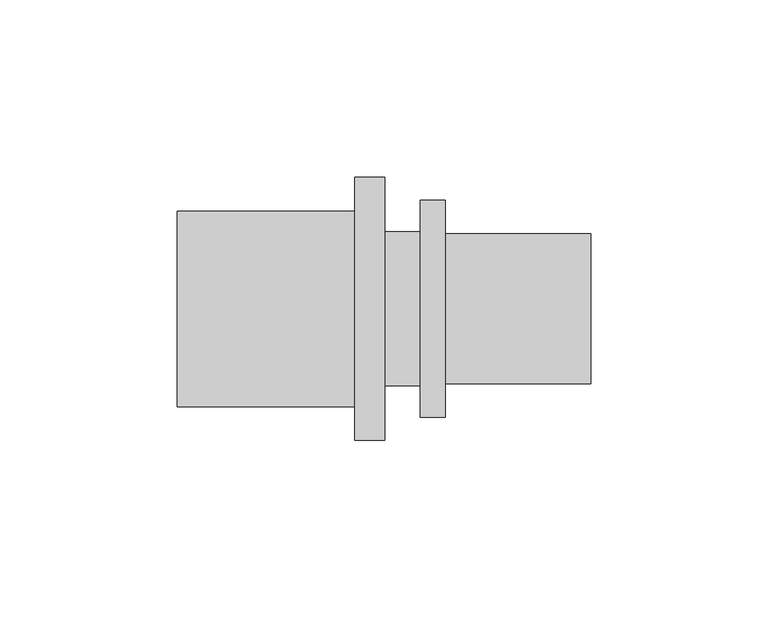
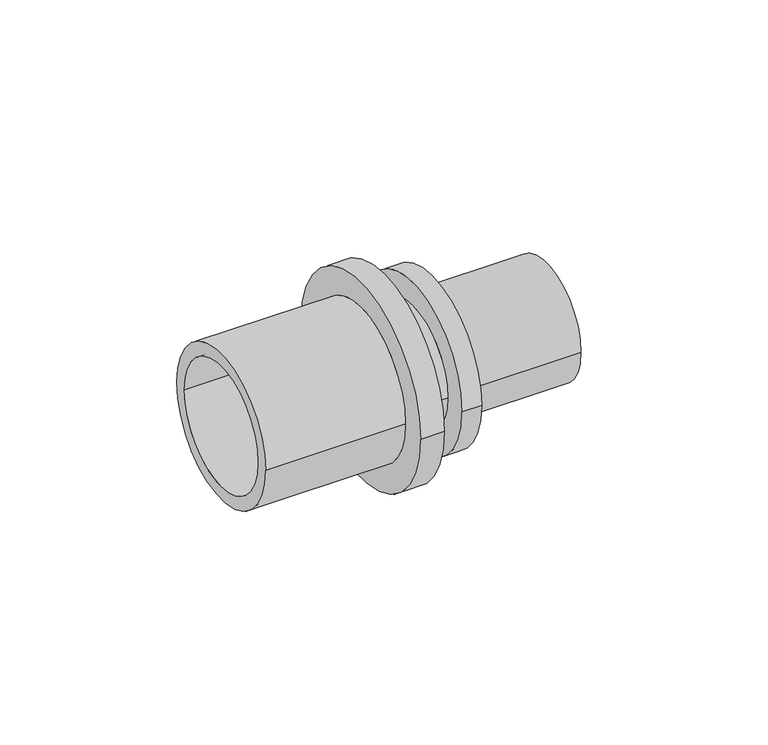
"""IFC4 building model written with IfcOpenShell, lengths in millimetres: pipe fitting geometry, RAUTITAN_Transition_RX+ stabil : RTI RX+ stabil Tr DE."""

from ifc_helpers import new_model, si_unit, frame, origin, place, context, project, spatial, polyline, circle_curve, source, transform, mapped, element, save
from ifc_brep_helpers import plane_surface, cylinder_surface, revolved_surface, advanced_brep


def pipe_fitting_1c4b8443(model_context):
    return source(origin(), model_context, "Body", "AdvancedBrep", [
        advanced_brep(
        [(-63.5, 22.75, 0.0), (-63.5, -22.75, 0.0), (-13.5, -22.75, 0.0), (-13.5, 22.75, 0.0), (5.0, 21.75, 0.0), (5.0, -21.75, 0.0), (-5.0, -21.75, 0.0), (-5.0, 21.75, 0.0), (12.0, 30.55, 0.0), (12.0, -30.55, 0.0), (5.0, -30.55, 0.0), (5.0, 30.55, 0.0), (53.0, 21.15, 0.0), (53.0, -21.15, 0.0), (12.0, -21.15, 0.0), (12.0, 21.15, 0.0), (-7.5, 16.75, 0.0), (-7.5, -16.75, 0.0), (53.0, -16.75, 0.0), (53.0, 16.75, 0.0), (-5.0, 37.05, 0.0), (-5.0, -37.05, 0.0), (-13.5, 27.55, 0.0), (-13.5, -27.55, 0.0), (-63.5, -27.55, 0.0), (-63.5, 27.55, 0.0), (-13.5, -37.05, 0.0), (-13.5, 37.05, 0.0)],
        [
            (0, 1, circle_curve(frame((-63.5, 0.0, 0.0), z_axis=(-1.0, 0.0, 0.0), x_axis=(0.0, -1.0, 0.0)), 22.75)),
            (1, 2),
            (2, 3, circle_curve(frame((-13.5, 0.0, 0.0), z_axis=(1.0, 0.0, 0.0), x_axis=(0.0, -1.0, 0.0)), 22.75)),
            (3, 0),
            (4, 5, circle_curve(frame((5.0, 0.0, 0.0), z_axis=(-1.0, 0.0, 0.0), x_axis=(0.0, -1.0, 0.0)), 21.75)),
            (5, 6),
            (6, 7, circle_curve(frame((-5.0, 0.0, 0.0), z_axis=(1.0, 0.0, 0.0), x_axis=(0.0, -1.0, 0.0)), 21.75)),
            (7, 4),
            (8, 9, circle_curve(frame((12.0, 0.0, 0.0), z_axis=(-1.0, 0.0, 0.0), x_axis=(0.0, -1.0, 0.0)), 30.55)),
            (9, 10),
            (10, 11, circle_curve(frame((5.0, 0.0, 0.0), z_axis=(1.0, 0.0, 0.0), x_axis=(0.0, -1.0, 0.0)), 30.55)),
            (11, 8),
            (12, 13, circle_curve(frame((53.0, 0.0, 0.0), z_axis=(-1.0, 0.0, 0.0), x_axis=(0.0, -1.0, 0.0)), 21.15)),
            (13, 14),
            (14, 15, circle_curve(frame((12.0, 0.0, 0.0), z_axis=(1.0, 0.0, 0.0), x_axis=(0.0, -1.0, 0.0)), 21.15)),
            (15, 12),
            (16, 17, circle_curve(frame((-7.5, 0.0, 0.0), z_axis=(-1.0, 0.0, 0.0), x_axis=(0.0, -1.0, 0.0)), 16.75)),
            (17, 18),
            (18, 19, circle_curve(frame((53.0, 0.0, 0.0), z_axis=(1.0, 0.0, 0.0), x_axis=(0.0, -1.0, 0.0)), 16.75)),
            (19, 16),
            (2, 17),
            (16, 3),
            (1, 0, circle_curve(frame((-63.5, 0.0, 0.0), z_axis=(-1.0, 0.0, 0.0), x_axis=(0.0, 1.0, 0.0)), 22.75)),
            (3, 2, circle_curve(frame((-13.5, 0.0, 0.0), z_axis=(1.0, 0.0, 0.0), x_axis=(0.0, 1.0, 0.0)), 22.75)),
            (20, 21, circle_curve(frame((-5.0, 0.0, 0.0), z_axis=(1.0, 0.0, 0.0), x_axis=(0.0, 1.0, 0.0)), 37.05)),
            (21, 20, circle_curve(frame((-5.0, 0.0, 0.0), z_axis=(1.0, 0.0, 0.0), x_axis=(0.0, -1.0, 0.0)), 37.05)),
            (6, 7, circle_curve(frame((-5.0, 0.0, 0.0), z_axis=(-1.0, 0.0, 0.0), x_axis=(0.0, 1.0, 0.0)), 21.75)),
            (5, 4, circle_curve(frame((5.0, 0.0, 0.0), z_axis=(-1.0, 0.0, 0.0), x_axis=(0.0, 1.0, 0.0)), 21.75)),
            (10, 11, circle_curve(frame((5.0, 0.0, 0.0), z_axis=(-1.0, 0.0, 0.0), x_axis=(0.0, 1.0, 0.0)), 30.55)),
            (9, 8, circle_curve(frame((12.0, 0.0, 0.0), z_axis=(-1.0, 0.0, 0.0), x_axis=(0.0, 1.0, 0.0)), 30.55)),
            (14, 15, circle_curve(frame((12.0, 0.0, 0.0), z_axis=(-1.0, 0.0, 0.0), x_axis=(0.0, 1.0, 0.0)), 21.15)),
            (13, 12, circle_curve(frame((53.0, 0.0, 0.0), z_axis=(-1.0, 0.0, 0.0), x_axis=(0.0, 1.0, 0.0)), 21.15)),
            (18, 19, circle_curve(frame((53.0, 0.0, 0.0), z_axis=(-1.0, 0.0, 0.0), x_axis=(0.0, 1.0, 0.0)), 16.75)),
            (17, 16, circle_curve(frame((-7.5, 0.0, 0.0), z_axis=(-1.0, 0.0, 0.0), x_axis=(0.0, 1.0, 0.0)), 16.75)),
            (22, 23, circle_curve(frame((-13.5, 0.0, 0.0), z_axis=(-1.0, 0.0, 0.0), x_axis=(0.0, -1.0, 0.0)), 27.55)),
            (23, 24),
            (24, 25, circle_curve(frame((-63.5, 0.0, 0.0), z_axis=(1.0, 0.0, 0.0), x_axis=(0.0, -1.0, 0.0)), 27.55)),
            (25, 22),
            (21, 26),
            (26, 27, circle_curve(frame((-13.5, 0.0, 0.0), z_axis=(1.0, 0.0, 0.0), x_axis=(0.0, -1.0, 0.0)), 37.05)),
            (27, 20),
            (24, 25, circle_curve(frame((-63.5, 0.0, 0.0), z_axis=(-1.0, 0.0, 0.0), x_axis=(0.0, 1.0, 0.0)), 27.55)),
            (23, 22, circle_curve(frame((-13.5, 0.0, 0.0), z_axis=(-1.0, 0.0, 0.0), x_axis=(0.0, 1.0, 0.0)), 27.55)),
            (26, 27, circle_curve(frame((-13.5, 0.0, 0.0), z_axis=(-1.0, 0.0, 0.0), x_axis=(0.0, 1.0, 0.0)), 37.05)),
        ],
        [
            revolved_surface(polyline([(-13.5, -22.75, 0.0), (-63.5, -22.75, 0.0)]), (0.0, 0.0, 0.0), (1.0, 0.0, 0.0)),
            cylinder_surface(frame((0.0, 0.0, 0.0), z_axis=(1.0, 0.0, 0.0), x_axis=(0.0, -1.0, 0.0)), 21.75),
            cylinder_surface(frame((0.0, 0.0, 0.0), z_axis=(1.0, 0.0, 0.0), x_axis=(0.0, -1.0, 0.0)), 30.55),
            cylinder_surface(frame((0.0, 0.0, 0.0), z_axis=(1.0, 0.0, 0.0), x_axis=(0.0, -1.0, 0.0)), 21.15),
            revolved_surface(polyline([(53.0, -16.75, 0.0), (-7.5, -16.75, 0.0)]), (0.0, 0.0, 0.0), (1.0, 0.0, 0.0)),
            revolved_surface(polyline([(-7.5, -16.75, 0.0), (-13.5, -22.75, 0.0)]), (0.0, 0.0, 0.0), (1.0, 0.0, 0.0)),
            revolved_surface(polyline([(-13.5, 22.75, 0.0), (-63.5, 22.75, 0.0)]), (0.0, 0.0, 0.0), (1.0, 0.0, 0.0)),
            plane_surface(frame((-5.0, 0.0, 0.0), z_axis=(1.0, 0.0, 0.0), x_axis=(0.0, 1.0, 0.0))),
            cylinder_surface(frame((0.0, 0.0, 0.0), z_axis=(1.0, 0.0, 0.0), x_axis=(0.0, 1.0, 0.0)), 21.75),
            plane_surface(frame((5.0, 0.0, 0.0), z_axis=(-1.0, 0.0, 0.0), x_axis=(0.0, 1.0, 0.0))),
            cylinder_surface(frame((0.0, 0.0, 0.0), z_axis=(1.0, 0.0, 0.0), x_axis=(0.0, 1.0, 0.0)), 30.55),
            plane_surface(frame((12.0, 0.0, 0.0), z_axis=(1.0, 0.0, 0.0), x_axis=(0.0, 1.0, 0.0))),
            cylinder_surface(frame((0.0, 0.0, 0.0), z_axis=(1.0, 0.0, 0.0), x_axis=(0.0, 1.0, 0.0)), 21.15),
            plane_surface(frame((53.0, 0.0, 0.0), z_axis=(1.0, 0.0, 0.0), x_axis=(0.0, 1.0, 0.0))),
            revolved_surface(polyline([(53.0, 16.75, 0.0), (-7.5, 16.75, 0.0)]), (0.0, 0.0, 0.0), (1.0, 0.0, 0.0)),
            revolved_surface(polyline([(-7.5, 16.75, 0.0), (-13.5, 22.75, 0.0)]), (0.0, 0.0, 0.0), (1.0, 0.0, 0.0)),
            cylinder_surface(frame((0.0, 0.0, 0.0), z_axis=(1.0, 0.0, 0.0), x_axis=(0.0, -1.0, 0.0)), 27.55),
            cylinder_surface(frame((0.0, 0.0, 0.0), z_axis=(1.0, 0.0, 0.0), x_axis=(0.0, -1.0, 0.0)), 37.05),
            plane_surface(frame((-63.5, 0.0, 0.0), z_axis=(-1.0, 0.0, 0.0), x_axis=(0.0, 1.0, 0.0))),
            cylinder_surface(frame((0.0, 0.0, 0.0), z_axis=(1.0, 0.0, 0.0), x_axis=(0.0, 1.0, 0.0)), 27.55),
            plane_surface(frame((-13.5, 0.0, 0.0), z_axis=(-1.0, 0.0, 0.0), x_axis=(0.0, 1.0, 0.0))),
            cylinder_surface(frame((0.0, 0.0, 0.0), z_axis=(1.0, 0.0, 0.0), x_axis=(0.0, 1.0, 0.0)), 37.05),
        ],
        [
            (0, [[1, 2, 3, 4]]),
            (1, [[5, 6, 7, 8]]),
            (2, [[9, 10, 11, 12]]),
            (3, [[13, 14, 15, 16]]),
            (4, [[17, 18, 19, 20]]),
            (5, [[-3, 21, -17, 22]]),
            (6, [[23, -4, 24, -2]]),
            (7, [[25, 26], [27, -7]]),
            (8, [[28, -8, -27, -6]]),
            (9, [[29, -11], [-28, -5]]),
            (10, [[30, -12, -29, -10]]),
            (11, [[-30, -9], [31, -15]]),
            (12, [[32, -16, -31, -14]]),
            (13, [[-32, -13], [33, -19]]),
            (14, [[34, -20, -33, -18]]),
            (15, [[-24, -22, -34, -21]]),
            (16, [[35, 36, 37, 38]]),
            (17, [[-26, 39, 40, 41]]),
            (18, [[42, -37], [-23, -1]]),
            (19, [[43, -38, -42, -36]]),
            (20, [[44, -40], [-43, -35]]),
            (21, [[-25, -41, -44, -39]]),
        ],
    ),
    ])


if __name__ == "__main__":
    model = new_model("IFC4")
    model_context = context("Model", 3, world=origin())
    ifc_project = project(units=[si_unit("LENGTHUNIT", "METRE", prefix="MILLI")], contexts=[model_context])
    site = spatial("IfcSite", under=ifc_project)
    building = spatial("IfcBuilding", under=site)
    placement = place(None, origin())
    pipe_fitting_shape = pipe_fitting_1c4b8443(model_context)
    element("IfcPipeFitting", 1, ObjectType="RAUTITAN_Transition_RX+ stabil : RTI RX+ stabil Tr DE", at=placement, inside=building, context=model_context, shape_type="MappedRepresentation", body=[
        mapped(pipe_fitting_shape, transform((0.0, 0.0, 0.0), x_axis=(1.0, 0.0, 0.0), y_axis=(0.0, 1.0, 0.0), z_axis=(0.0, 0.0, 1.0))),
    ])
    save(model, "model.ifc")
